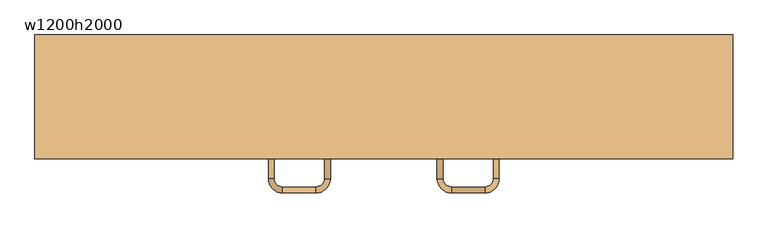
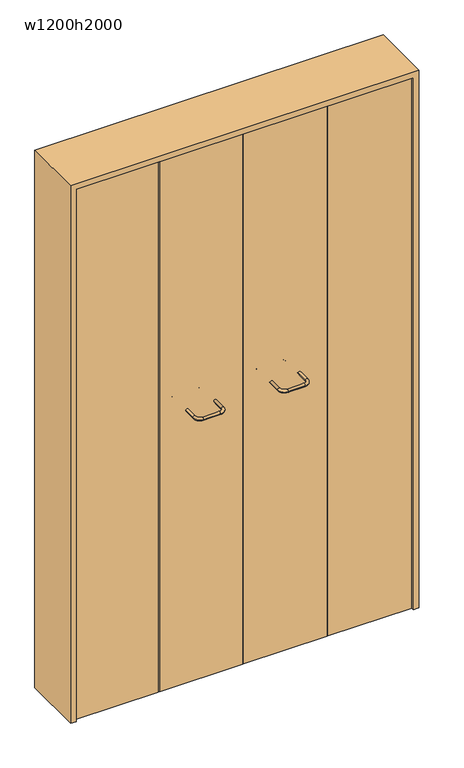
"""IFC4 building model written with IfcOpenShell, lengths in millimetres: door geometry, 木製折戸 : w1200h2000."""

from ifc_helpers import new_model, si_unit, point, frame, origin, origin_with_axes, place, context, project, spatial, polyline, circle_curve, ellipse_curve, trimmed, outline, extrude, source, transform, mapped, element, save
from ifc_brep_helpers import cylinder_surface, revolved_surface, advanced_brep


def w1200h2000_ebe1d490(model_context):
    return source(origin(), model_context, "Body", "SolidModel", [
        extrude(outline(polyline([(2020.0, -620.0), (0.0, -620.0), (0.0, -600.0), (2000.0, -600.0), (2000.0, 600.0), (0.0, 600.0), (0.0, 620.0), (2020.0, 620.0), (2020.0, -620.0)])), frame((0.0, -110.0, 0.0), z_axis=(0.0, 1.0, 0.0), x_axis=(0.0, 0.0, 1.0)), (0.0, 0.0, 1.0), 220.0),
        extrude(outline(polyline([(298.0, -70.0), (298.0, -100.0), (2.0, -100.0), (2.0, -70.0), (298.0, -70.0)])), origin_with_axes(), (0.0, 0.0, 1.0), 2000.0),
        extrude(outline(polyline([(600.0, -70.0), (600.0, -100.0), (302.0, -100.0), (302.0, -70.0), (600.0, -70.0)])), origin_with_axes(), (0.0, 0.0, 1.0), 2000.0),
        extrude(outline(polyline([(-2.0, -70.0), (-2.0, -100.0), (-298.0, -100.0), (-298.0, -70.0), (-2.0, -70.0)])), origin_with_axes(), (0.0, 0.0, 1.0), 2000.0),
        extrude(outline(polyline([(-302.0, -70.0), (-302.0, -100.0), (-600.0, -100.0), (-600.0, -70.0), (-302.0, -70.0)])), origin_with_axes(), (0.0, 0.0, 1.0), 2000.0),
        advanced_brep(
        [(95.0, -20.0, 1025.0), (105.0, -20.0, 1025.0), (120.0, -5.0, 1025.0), (120.0, 5.0, 1025.0), (95.0, -145.0, 1025.0), (105.0, -145.0, 1025.0), (120.0, -170.0, 1025.0), (120.0, -160.0, 1025.0), (180.0, -170.0, 1025.0), (180.0, -160.0, 1025.0), (205.0, -145.0, 1025.0), (195.0, -145.0, 1025.0), (205.0, -20.0, 1025.0), (195.0, -20.0, 1025.0), (180.0, 5.0, 1025.0), (180.0, -5.0, 1025.0)],
        [
            (0, 1, circle_curve(frame((100.0, -20.0, 1025.0), z_axis=(0.0, 1.0, 0.0), x_axis=(-1.0, 0.0, 0.0)), 5.0)),
            (1, 2, circle_curve(frame((120.0, -20.0, 1025.0), z_axis=(0.0, 0.0, -1.0), x_axis=(0.0, 1.0, 0.0)), 15.0)),
            (2, 3, circle_curve(frame((120.0, 0.0, 1025.0), z_axis=(-1.0, 0.0, 0.0), x_axis=(0.0, 1.0, 0.0)), 5.0)),
            (3, 0, circle_curve(frame((120.0, -20.0, 1025.0), z_axis=(0.0, 0.0, 1.0), x_axis=(0.0, 1.0, 0.0)), 25.0)),
            (1, 0, circle_curve(frame((100.0, -20.0, 1025.0), z_axis=(0.0, 1.0, 0.0), x_axis=(-1.0, 0.0, 0.0)), 5.0)),
            (3, 2, circle_curve(frame((120.0, 0.0, 1025.0), z_axis=(-1.0, 0.0, 0.0), x_axis=(0.0, 1.0, 0.0)), 5.0)),
            (0, 4),
            (4, 5, circle_curve(frame((100.0, -145.0, 1025.0), z_axis=(0.0, 1.0, 0.0), x_axis=(-1.0, 0.0, 0.0)), 5.0)),
            (5, 1),
            (5, 4, circle_curve(frame((100.0, -145.0, 1025.0), z_axis=(0.0, 1.0, 0.0), x_axis=(-1.0, 0.0, 0.0)), 5.0)),
            (6, 7, circle_curve(frame((120.0, -165.0, 1025.0), z_axis=(-1.0, 0.0, 0.0), x_axis=(0.0, -1.0, 0.0)), 5.0)),
            (7, 5, circle_curve(frame((120.0, -145.0, 1025.0), z_axis=(0.0, 0.0, -1.0), x_axis=(-1.0, 0.0, 0.0)), 15.0)),
            (4, 6, circle_curve(frame((120.0, -145.0, 1025.0), z_axis=(0.0, 0.0, 1.0), x_axis=(-1.0, 0.0, 0.0)), 25.0)),
            (7, 6, circle_curve(frame((120.0, -165.0, 1025.0), z_axis=(-1.0, 0.0, 0.0), x_axis=(0.0, -1.0, 0.0)), 5.0)),
            (6, 8),
            (8, 9, circle_curve(frame((180.0, -165.0, 1025.0), z_axis=(-1.0, 0.0, 0.0), x_axis=(0.0, -1.0, 0.0)), 5.0)),
            (9, 7),
            (9, 8, circle_curve(frame((180.0, -165.0, 1025.0), z_axis=(-1.0, 0.0, 0.0), x_axis=(0.0, -1.0, 0.0)), 5.0)),
            (10, 11, circle_curve(frame((200.0, -145.0, 1025.0), z_axis=(0.0, -1.0, 0.0), x_axis=(1.0, 0.0, 0.0)), 5.0)),
            (11, 9, circle_curve(frame((180.0, -145.0, 1025.0), z_axis=(0.0, 0.0, -1.0), x_axis=(0.0, -1.0, 0.0)), 15.0)),
            (8, 10, circle_curve(frame((180.0, -145.0, 1025.0), z_axis=(0.0, 0.0, 1.0), x_axis=(0.0, -1.0, 0.0)), 25.0)),
            (11, 10, circle_curve(frame((200.0, -145.0, 1025.0), z_axis=(0.0, -1.0, 0.0), x_axis=(1.0, 0.0, 0.0)), 5.0)),
            (10, 12),
            (12, 13, circle_curve(frame((200.0, -20.0, 1025.0), z_axis=(0.0, -1.0, 0.0), x_axis=(1.0, 0.0, 0.0)), 5.0)),
            (13, 11),
            (13, 12, circle_curve(frame((200.0, -20.0, 1025.0), z_axis=(0.0, -1.0, 0.0), x_axis=(1.0, 0.0, 0.0)), 5.0)),
            (14, 15, circle_curve(frame((180.0, 0.0, 1025.0), z_axis=(1.0, 0.0, 0.0), x_axis=(0.0, 1.0, 0.0)), 5.0)),
            (15, 13, circle_curve(frame((180.0, -20.0, 1025.0), z_axis=(0.0, 0.0, -1.0), x_axis=(1.0, 0.0, 0.0)), 15.0)),
            (12, 14, circle_curve(frame((180.0, -20.0, 1025.0), z_axis=(0.0, 0.0, 1.0), x_axis=(1.0, 0.0, 0.0)), 25.0)),
            (15, 14, circle_curve(frame((180.0, 0.0, 1025.0), z_axis=(1.0, 0.0, 0.0), x_axis=(0.0, 1.0, 0.0)), 5.0)),
            (14, 3),
            (2, 15),
        ],
        [
            revolved_surface(trimmed(ellipse_curve(frame((120.0, 0.0, 1025.0), z_axis=(-1.0, 0.0, 0.0), x_axis=(0.0, 1.0, 0.0)), 5.0, 5.0), [point((120.0, -5.0, 1025.0))], [point((120.0, 5.0, 1025.0))], True, "CARTESIAN"), (120.0, -20.0, 0.0), (0.0, 0.0, -1.0)),
            revolved_surface(trimmed(ellipse_curve(frame((120.0, 0.0, 1025.0), z_axis=(-1.0, 0.0, 0.0), x_axis=(0.0, 1.0, 0.0)), 5.0, 5.0), [point((120.0, 5.0, 1025.0))], [point((120.0, -5.0, 1025.0))], True, "CARTESIAN"), (120.0, -20.0, 0.0), (0.0, 0.0, -1.0)),
            cylinder_surface(frame((100.0, -20.0, 1025.0), z_axis=(0.0, 1.0, 0.0), x_axis=(-1.0, 0.0, 0.0)), 5.0),
            revolved_surface(trimmed(ellipse_curve(frame((100.0, -145.0, 1025.0), z_axis=(0.0, -1.0, 0.0), x_axis=(-1.0, 0.0, 0.0)), 5.0, 5.0), [point((105.0, -145.0, 1025.0))], [point((95.0, -145.0, 1025.0))], True, "CARTESIAN"), (120.0, -145.0, 0.0), (0.0, 0.0, -1.0)),
            revolved_surface(trimmed(ellipse_curve(frame((100.0, -145.0, 1025.0), z_axis=(0.0, -1.0, 0.0), x_axis=(-1.0, 0.0, 0.0)), 5.0, 5.0), [point((95.0, -145.0, 1025.0))], [point((105.0, -145.0, 1025.0))], True, "CARTESIAN"), (120.0, -145.0, 0.0), (0.0, 0.0, -1.0)),
            cylinder_surface(frame((120.0, -165.0, 1025.0), z_axis=(-1.0, 0.0, 0.0), x_axis=(0.0, -1.0, 0.0)), 5.0),
            revolved_surface(trimmed(ellipse_curve(frame((180.0, -165.0, 1025.0), z_axis=(1.0, 0.0, 0.0), x_axis=(0.0, -1.0, 0.0)), 5.0, 5.0), [point((180.0, -160.0, 1025.0))], [point((180.0, -170.0, 1025.0))], True, "CARTESIAN"), (180.0, -145.0, 0.0), (0.0, 0.0, -1.0)),
            revolved_surface(trimmed(ellipse_curve(frame((180.0, -165.0, 1025.0), z_axis=(1.0, 0.0, 0.0), x_axis=(0.0, -1.0, 0.0)), 5.0, 5.0), [point((180.0, -170.0, 1025.0))], [point((180.0, -160.0, 1025.0))], True, "CARTESIAN"), (180.0, -145.0, 0.0), (0.0, 0.0, -1.0)),
            cylinder_surface(frame((200.0, -145.0, 1025.0), z_axis=(0.0, -1.0, 0.0), x_axis=(1.0, 0.0, 0.0)), 5.0),
            revolved_surface(trimmed(ellipse_curve(frame((200.0, -20.0, 1025.0), z_axis=(0.0, 1.0, 0.0), x_axis=(1.0, 0.0, 0.0)), 5.0, 5.0), [point((195.0, -20.0, 1025.0))], [point((205.0, -20.0, 1025.0))], True, "CARTESIAN"), (180.0, -20.0, 0.0), (0.0, 0.0, -1.0)),
            revolved_surface(trimmed(ellipse_curve(frame((200.0, -20.0, 1025.0), z_axis=(0.0, 1.0, 0.0), x_axis=(1.0, 0.0, 0.0)), 5.0, 5.0), [point((205.0, -20.0, 1025.0))], [point((195.0, -20.0, 1025.0))], True, "CARTESIAN"), (180.0, -20.0, 0.0), (0.0, 0.0, -1.0)),
            cylinder_surface(frame((180.0, 0.0, 1025.0), z_axis=(1.0, 0.0, 0.0), x_axis=(0.0, 1.0, 0.0)), 5.0),
        ],
        [
            (0, [[1, 2, 3, 4]]),
            (1, [[5, -4, 6, -2]]),
            (2, [[7, 8, 9, -1]]),
            (2, [[-9, 10, -7, -5]]),
            (3, [[11, 12, -8, 13]]),
            (4, [[14, -13, -10, -12]]),
            (5, [[15, 16, 17, -11]]),
            (5, [[-17, 18, -15, -14]]),
            (6, [[19, 20, -16, 21]]),
            (7, [[22, -21, -18, -20]]),
            (8, [[23, 24, 25, -19]]),
            (8, [[-25, 26, -23, -22]]),
            (9, [[27, 28, -24, 29]]),
            (10, [[30, -29, -26, -28]]),
            (11, [[31, -3, 32, -27]]),
            (11, [[-32, -6, -31, -30]]),
        ],
    ),
        advanced_brep(
        [(-105.0, -20.0, 1025.0), (-95.0, -20.0, 1025.0), (-120.0, 5.0, 1025.0), (-120.0, -5.0, 1025.0), (-105.0, -145.0, 1025.0), (-95.0, -145.0, 1025.0), (-120.0, -160.0, 1025.0), (-120.0, -170.0, 1025.0), (-180.0, -160.0, 1025.0), (-180.0, -170.0, 1025.0), (-195.0, -145.0, 1025.0), (-205.0, -145.0, 1025.0), (-195.0, -20.0, 1025.0), (-205.0, -20.0, 1025.0), (-180.0, -5.0, 1025.0), (-180.0, 5.0, 1025.0)],
        [
            (0, 1, circle_curve(frame((-100.0, -20.0, 1025.0), z_axis=(0.0, 1.0, 0.0), x_axis=(-1.0, 0.0, 0.0)), 5.0)),
            (1, 2, circle_curve(frame((-120.0, -20.0, 1025.0), z_axis=(0.0, 0.0, 1.0), x_axis=(0.0, 1.0, 0.0)), 25.0)),
            (2, 3, circle_curve(frame((-120.0, 0.0, 1025.0), z_axis=(1.0, 0.0, 0.0), x_axis=(0.0, -1.0, 0.0)), 5.0)),
            (3, 0, circle_curve(frame((-120.0, -20.0, 1025.0), z_axis=(0.0, 0.0, -1.0), x_axis=(0.0, 1.0, 0.0)), 15.0)),
            (1, 0, circle_curve(frame((-100.0, -20.0, 1025.0), z_axis=(0.0, 1.0, 0.0), x_axis=(-1.0, 0.0, 0.0)), 5.0)),
            (3, 2, circle_curve(frame((-120.0, 0.0, 1025.0), z_axis=(1.0, 0.0, 0.0), x_axis=(0.0, -1.0, 0.0)), 5.0)),
            (0, 4),
            (4, 5, circle_curve(frame((-100.0, -145.0, 1025.0), z_axis=(0.0, 1.0, 0.0), x_axis=(-1.0, 0.0, 0.0)), 5.0)),
            (5, 1),
            (5, 4, circle_curve(frame((-100.0, -145.0, 1025.0), z_axis=(0.0, 1.0, 0.0), x_axis=(-1.0, 0.0, 0.0)), 5.0)),
            (6, 7, circle_curve(frame((-120.0, -165.0, 1025.0), z_axis=(1.0, 0.0, 0.0), x_axis=(0.0, 1.0, 0.0)), 5.0)),
            (7, 5, circle_curve(frame((-120.0, -145.0, 1025.0), z_axis=(0.0, 0.0, 1.0), x_axis=(1.0, 0.0, 0.0)), 25.0)),
            (4, 6, circle_curve(frame((-120.0, -145.0, 1025.0), z_axis=(0.0, 0.0, -1.0), x_axis=(1.0, 0.0, 0.0)), 15.0)),
            (7, 6, circle_curve(frame((-120.0, -165.0, 1025.0), z_axis=(1.0, 0.0, 0.0), x_axis=(0.0, 1.0, 0.0)), 5.0)),
            (6, 8),
            (8, 9, circle_curve(frame((-180.0, -165.0, 1025.0), z_axis=(1.0, 0.0, 0.0), x_axis=(0.0, 1.0, 0.0)), 5.0)),
            (9, 7),
            (9, 8, circle_curve(frame((-180.0, -165.0, 1025.0), z_axis=(1.0, 0.0, 0.0), x_axis=(0.0, 1.0, 0.0)), 5.0)),
            (10, 11, circle_curve(frame((-200.0, -145.0, 1025.0), z_axis=(0.0, -1.0, 0.0), x_axis=(1.0, 0.0, 0.0)), 5.0)),
            (11, 9, circle_curve(frame((-180.0, -145.0, 1025.0), z_axis=(0.0, 0.0, 1.0), x_axis=(0.0, -1.0, 0.0)), 25.0)),
            (8, 10, circle_curve(frame((-180.0, -145.0, 1025.0), z_axis=(0.0, 0.0, -1.0), x_axis=(0.0, -1.0, 0.0)), 15.0)),
            (11, 10, circle_curve(frame((-200.0, -145.0, 1025.0), z_axis=(0.0, -1.0, 0.0), x_axis=(1.0, 0.0, 0.0)), 5.0)),
            (10, 12),
            (12, 13, circle_curve(frame((-200.0, -20.0, 1025.0), z_axis=(0.0, -1.0, 0.0), x_axis=(1.0, 0.0, 0.0)), 5.0)),
            (13, 11),
            (13, 12, circle_curve(frame((-200.0, -20.0, 1025.0), z_axis=(0.0, -1.0, 0.0), x_axis=(1.0, 0.0, 0.0)), 5.0)),
            (14, 15, circle_curve(frame((-180.0, 0.0, 1025.0), z_axis=(-1.0, 0.0, 0.0), x_axis=(0.0, -1.0, 0.0)), 5.0)),
            (15, 13, circle_curve(frame((-180.0, -20.0, 1025.0), z_axis=(0.0, 0.0, 1.0), x_axis=(-1.0, 0.0, 0.0)), 25.0)),
            (12, 14, circle_curve(frame((-180.0, -20.0, 1025.0), z_axis=(0.0, 0.0, -1.0), x_axis=(-1.0, 0.0, 0.0)), 15.0)),
            (15, 14, circle_curve(frame((-180.0, 0.0, 1025.0), z_axis=(-1.0, 0.0, 0.0), x_axis=(0.0, -1.0, 0.0)), 5.0)),
            (14, 3),
            (2, 15),
        ],
        [
            revolved_surface(trimmed(ellipse_curve(frame((-120.0, 0.0, 1025.0), z_axis=(1.0, 0.0, 0.0), x_axis=(0.0, -1.0, 0.0)), 5.0, 5.0), [point((-120.0, 5.0, 1025.0))], [point((-120.0, -5.0, 1025.0))], True, "CARTESIAN"), (-120.0, -20.0, 0.0), (0.0, 0.0, 1.0)),
            revolved_surface(trimmed(ellipse_curve(frame((-120.0, 0.0, 1025.0), z_axis=(1.0, 0.0, 0.0), x_axis=(0.0, -1.0, 0.0)), 5.0, 5.0), [point((-120.0, -5.0, 1025.0))], [point((-120.0, 5.0, 1025.0))], True, "CARTESIAN"), (-120.0, -20.0, 0.0), (0.0, 0.0, 1.0)),
            cylinder_surface(frame((-100.0, -20.0, 1025.0), z_axis=(0.0, 1.0, 0.0), x_axis=(-1.0, 0.0, 0.0)), 5.0),
            revolved_surface(trimmed(ellipse_curve(frame((-100.0, -145.0, 1025.0), z_axis=(0.0, -1.0, 0.0), x_axis=(-1.0, 0.0, 0.0)), 5.0, 5.0), [point((-95.0, -145.0, 1025.0))], [point((-105.0, -145.0, 1025.0))], True, "CARTESIAN"), (-120.0, -145.0, 0.0), (0.0, 0.0, 1.0)),
            revolved_surface(trimmed(ellipse_curve(frame((-100.0, -145.0, 1025.0), z_axis=(0.0, -1.0, 0.0), x_axis=(-1.0, 0.0, 0.0)), 5.0, 5.0), [point((-105.0, -145.0, 1025.0))], [point((-95.0, -145.0, 1025.0))], True, "CARTESIAN"), (-120.0, -145.0, 0.0), (0.0, 0.0, 1.0)),
            cylinder_surface(frame((-120.0, -165.0, 1025.0), z_axis=(1.0, 0.0, 0.0), x_axis=(0.0, 1.0, 0.0)), 5.0),
            revolved_surface(trimmed(ellipse_curve(frame((-180.0, -165.0, 1025.0), z_axis=(-1.0, 0.0, 0.0), x_axis=(0.0, 1.0, 0.0)), 5.0, 5.0), [point((-180.0, -170.0, 1025.0))], [point((-180.0, -160.0, 1025.0))], True, "CARTESIAN"), (-180.0, -145.0, 0.0), (0.0, 0.0, 1.0)),
            revolved_surface(trimmed(ellipse_curve(frame((-180.0, -165.0, 1025.0), z_axis=(-1.0, 0.0, 0.0), x_axis=(0.0, 1.0, 0.0)), 5.0, 5.0), [point((-180.0, -160.0, 1025.0))], [point((-180.0, -170.0, 1025.0))], True, "CARTESIAN"), (-180.0, -145.0, 0.0), (0.0, 0.0, 1.0)),
            cylinder_surface(frame((-200.0, -145.0, 1025.0), z_axis=(0.0, -1.0, 0.0), x_axis=(1.0, 0.0, 0.0)), 5.0),
            revolved_surface(trimmed(ellipse_curve(frame((-200.0, -20.0, 1025.0), z_axis=(0.0, 1.0, 0.0), x_axis=(1.0, 0.0, 0.0)), 5.0, 5.0), [point((-205.0, -20.0, 1025.0))], [point((-195.0, -20.0, 1025.0))], True, "CARTESIAN"), (-180.0, -20.0, 0.0), (0.0, 0.0, 1.0)),
            revolved_surface(trimmed(ellipse_curve(frame((-200.0, -20.0, 1025.0), z_axis=(0.0, 1.0, 0.0), x_axis=(1.0, 0.0, 0.0)), 5.0, 5.0), [point((-195.0, -20.0, 1025.0))], [point((-205.0, -20.0, 1025.0))], True, "CARTESIAN"), (-180.0, -20.0, 0.0), (0.0, 0.0, 1.0)),
            cylinder_surface(frame((-180.0, 0.0, 1025.0), z_axis=(-1.0, 0.0, 0.0), x_axis=(0.0, -1.0, 0.0)), 5.0),
        ],
        [
            (0, [[1, 2, 3, 4]]),
            (1, [[5, -4, 6, -2]]),
            (2, [[7, 8, 9, -1]]),
            (2, [[-9, 10, -7, -5]]),
            (3, [[11, 12, -8, 13]]),
            (4, [[14, -13, -10, -12]]),
            (5, [[15, 16, 17, -11]]),
            (5, [[-17, 18, -15, -14]]),
            (6, [[19, 20, -16, 21]]),
            (7, [[22, -21, -18, -20]]),
            (8, [[23, 24, 25, -19]]),
            (8, [[-25, 26, -23, -22]]),
            (9, [[27, 28, -24, 29]]),
            (10, [[30, -29, -26, -28]]),
            (11, [[31, -3, 32, -27]]),
            (11, [[-32, -6, -31, -30]]),
        ],
    ),
    ])


if __name__ == "__main__":
    model = new_model("IFC4")
    model_context = context("Model", 3, world=origin())
    ifc_project = project(units=[si_unit("LENGTHUNIT", "METRE", prefix="MILLI")], contexts=[model_context])
    site = spatial("IfcSite", under=ifc_project)
    building = spatial("IfcBuilding", under=site)
    placement = place(None, origin())
    w1200h2000_shape = w1200h2000_ebe1d490(model_context)
    element("IfcDoor", 1, ObjectType="木製折戸 : w1200h2000", at=placement, inside=building, context=model_context, shape_type="MappedRepresentation", body=[
        mapped(w1200h2000_shape, transform((0.0, 0.0, 0.0), x_axis=(1.0, 0.0, 0.0), y_axis=(0.0, 1.0, 0.0), z_axis=(0.0, 0.0, 1.0))),
    ])
    save(model, "model.ifc")
